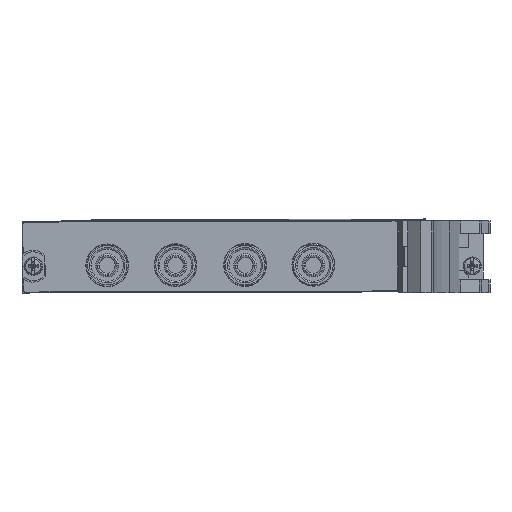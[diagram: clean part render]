
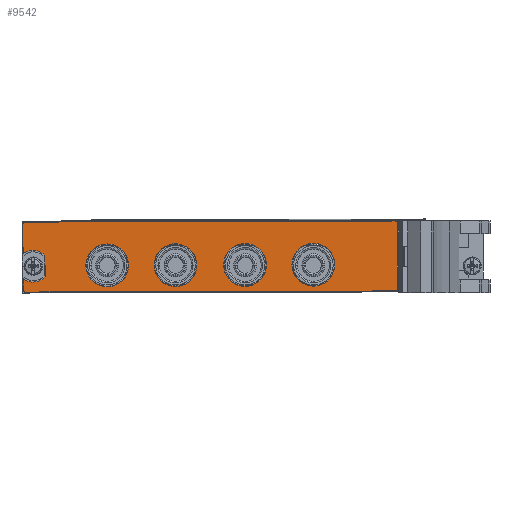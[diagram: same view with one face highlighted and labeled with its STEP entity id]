
A CAD part, left-side view. The second image highlights one B-rep face of the part: STEP entity #9542.
In plain terms, the highlighted planar face has unit normal (-1, 0, 0).
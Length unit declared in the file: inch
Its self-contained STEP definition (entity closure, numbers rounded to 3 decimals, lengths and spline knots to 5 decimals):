
#3374=CARTESIAN_POINT('',(-0.215,0.53584,
0.66169));
#3375=DIRECTION('',(-1.,0.,0.));
#3376=DIRECTION('',(0.,0.003,1.));
#3377=AXIS2_PLACEMENT_3D('',#3374,#3375,#3376);
#3379=DIRECTION('',(0.,1.,-0.003));
#3380=VECTOR('',#3379,4.07);
#3381=CARTESIAN_POINT('',(-0.215,-3.53409,
0.69393));
#3382=LINE('',#3381,#3380);
#3383=CARTESIAN_POINT('',(-0.215,-3.53415,
0.67393));
#3384=DIRECTION('',(-1.,0.,0.));
#3385=DIRECTION('',(0.,-1.,0.003));
#3386=AXIS2_PLACEMENT_3D('',#3383,#3384,#3385);
#3388=DIRECTION('',(0.,0.003,1.));
#3389=VECTOR('',#3388,0.728);
#3390=CARTESIAN_POINT('',(-0.215,-3.55634,
-0.054));
#3391=LINE('',#3390,#3389);
#3392=CARTESIAN_POINT('',(-0.215,-3.53634,
-0.05406));
#3393=DIRECTION('',(-1.,0.,0.));
#3394=DIRECTION('',(0.,-0.003,-1.));
#3395=AXIS2_PLACEMENT_3D('',#3392,#3393,#3394);
#3397=DIRECTION('',(0.,-1.,0.003));
#3398=VECTOR('',#3397,4.07);
#3399=CARTESIAN_POINT('',(-0.215,0.53358,
-0.08631));
#3400=LINE('',#3399,#3398);
#3401=CARTESIAN_POINT('',(-0.215,0.53365,
-0.06631));
#3402=DIRECTION('',(-1.,0.,0.));
#3403=DIRECTION('',(0.,1.,-0.003));
#3404=AXIS2_PLACEMENT_3D('',#3401,#3402,#3403);
#3406=DIRECTION('',(0.,-0.003,-1.));
#3407=VECTOR('',#3406,0.1263);
#3408=CARTESIAN_POINT('',(-0.215,0.55402,
0.05993));
#3409=LINE('',#3408,#3407);
#3410=CARTESIAN_POINT('',(-0.215,0.44644,
0.19795));
#3411=DIRECTION('',(1.,0.,0.));
#3412=DIRECTION('',(0.,-0.762,-0.648));
#3413=AXIS2_PLACEMENT_3D('',#3410,#3411,#3412);
#3415=DIRECTION('',(0.,-0.003,-1.));
#3416=VECTOR('',#3415,0.22747);
#3417=CARTESIAN_POINT('',(-0.215,0.31378,
0.31209));
#3418=LINE('',#3417,#3416);
#3419=CARTESIAN_POINT('',(-0.215,0.44644,
0.19795));
#3420=DIRECTION('',(1.,0.,0.));
#3421=DIRECTION('',(0.,0.62,0.785));
#3422=AXIS2_PLACEMENT_3D('',#3419,#3420,#3421);
#3424=DIRECTION('',(0.,-0.003,-1.));
#3425=VECTOR('',#3424,0.3263);
#3426=CARTESIAN_POINT('',(-0.215,0.55584,
0.66163));
#3427=LINE('',#3426,#3425);
#3428=CARTESIAN_POINT('',(-0.215,-0.36961,0.20678));
#3429=DIRECTION('',(1.,0.,0.));
#3430=DIRECTION('',(0.,-0.003,-1.));
#3431=AXIS2_PLACEMENT_3D('',#3428,#3429,#3430);
#3433=CARTESIAN_POINT('',(-0.215,-0.36961,0.20678));
#3434=DIRECTION('',(1.,0.,0.));
#3435=DIRECTION('',(0.,0.003,1.));
#3436=AXIS2_PLACEMENT_3D('',#3433,#3434,#3435);
#3438=CARTESIAN_POINT('',(-0.215,-1.1196,0.20904));
#3439=DIRECTION('',(1.,0.,0.));
#3440=DIRECTION('',(0.,-0.003,-1.));
#3441=AXIS2_PLACEMENT_3D('',#3438,#3439,#3440);
#3443=CARTESIAN_POINT('',(-0.215,-1.1196,0.20904));
#3444=DIRECTION('',(1.,0.,0.));
#3445=DIRECTION('',(0.,0.003,1.));
#3446=AXIS2_PLACEMENT_3D('',#3443,#3444,#3445);
#3448=CARTESIAN_POINT('',(-0.215,-1.8836,0.21133));
#3449=DIRECTION('',(1.,0.,0.));
#3450=DIRECTION('',(0.,-0.003,-1.));
#3451=AXIS2_PLACEMENT_3D('',#3448,#3449,#3450);
#3453=CARTESIAN_POINT('',(-0.215,-1.8836,0.21133));
#3454=DIRECTION('',(1.,0.,0.));
#3455=DIRECTION('',(0.,0.003,1.));
#3456=AXIS2_PLACEMENT_3D('',#3453,#3454,#3455);
#3458=CARTESIAN_POINT('',(-0.215,-2.6336,0.21359));
#3459=DIRECTION('',(1.,0.,0.));
#3460=DIRECTION('',(0.,-0.003,-1.));
#3461=AXIS2_PLACEMENT_3D('',#3458,#3459,#3460);
#3463=CARTESIAN_POINT('',(-0.215,-2.6336,0.21359));
#3464=DIRECTION('',(1.,0.,0.));
#3465=DIRECTION('',(0.,0.003,1.));
#3466=AXIS2_PLACEMENT_3D('',#3463,#3464,#3465);
#4984=CARTESIAN_POINT('',(-0.215,0.5359,
0.68169));
#4985=CARTESIAN_POINT('',(-0.215,0.55584,
0.66163));
#4986=VERTEX_POINT('',#4984);
#4987=VERTEX_POINT('',#4985);
#4988=CARTESIAN_POINT('',(-0.215,0.55485,
0.33533));
#4989=VERTEX_POINT('',#4988);
#4990=CARTESIAN_POINT('',(-0.215,0.31378,
0.31209));
#4991=VERTEX_POINT('',#4990);
#4992=CARTESIAN_POINT('',(-0.215,0.3131,
0.08462));
#4993=VERTEX_POINT('',#4992);
#4994=CARTESIAN_POINT('',(-0.215,0.55402,
0.05993));
#4995=VERTEX_POINT('',#4994);
#4996=CARTESIAN_POINT('',(-0.215,0.55364,
-0.06637));
#4997=VERTEX_POINT('',#4996);
#4998=CARTESIAN_POINT('',(-0.215,0.53358,
-0.08631));
#4999=VERTEX_POINT('',#4998);
#5000=CARTESIAN_POINT('',(-0.215,-3.5364,
-0.07406));
#5001=VERTEX_POINT('',#5000);
#5002=CARTESIAN_POINT('',(-0.215,-3.55634,
-0.054));
#5003=VERTEX_POINT('',#5002);
#5004=CARTESIAN_POINT('',(-0.215,-3.55415,
0.67399));
#5005=VERTEX_POINT('',#5004);
#5006=CARTESIAN_POINT('',(-0.215,-3.53409,
0.69393));
#5007=VERTEX_POINT('',#5006);
#5008=CARTESIAN_POINT('',(-0.215,-0.37031,-0.02822));
#5009=CARTESIAN_POINT('',(-0.215,-0.3689,0.44178));
#5010=VERTEX_POINT('',#5008);
#5011=VERTEX_POINT('',#5009);
#5012=CARTESIAN_POINT('',(-0.215,-1.12031,-0.02596));
#5013=CARTESIAN_POINT('',(-0.215,-1.1189,0.44403));
#5014=VERTEX_POINT('',#5012);
#5015=VERTEX_POINT('',#5013);
#5016=CARTESIAN_POINT('',(-0.215,-1.88431,-0.02367));
#5017=CARTESIAN_POINT('',(-0.215,-1.88289,0.44633));
#5018=VERTEX_POINT('',#5016);
#5019=VERTEX_POINT('',#5017);
#5020=CARTESIAN_POINT('',(-0.215,-2.6343,-0.02141));
#5021=CARTESIAN_POINT('',(-0.215,-2.63289,0.44859));
#5022=VERTEX_POINT('',#5020);
#5023=VERTEX_POINT('',#5021);
#9490=CARTESIAN_POINT('',(-0.215,0.44644,
0.19795));
#9491=DIRECTION('',(-1.,0.,0.));
#9492=DIRECTION('',(0.,0.003,1.));
#9493=AXIS2_PLACEMENT_3D('',#9490,#9491,#9492);
#9494=PLANE('',#9493);
#9495=ORIENTED_EDGE('',*,*,#5522,.F.);
#9497=ORIENTED_EDGE('',*,*,#9496,.F.);
#9499=ORIENTED_EDGE('',*,*,#9498,.F.);
#9501=ORIENTED_EDGE('',*,*,#9500,.F.);
#9503=ORIENTED_EDGE('',*,*,#9502,.F.);
#9505=ORIENTED_EDGE('',*,*,#9504,.F.);
#9507=ORIENTED_EDGE('',*,*,#9506,.F.);
#9509=ORIENTED_EDGE('',*,*,#9508,.F.);
#9511=ORIENTED_EDGE('',*,*,#9510,.F.);
#9513=ORIENTED_EDGE('',*,*,#9512,.F.);
#9515=ORIENTED_EDGE('',*,*,#9514,.F.);
#9517=ORIENTED_EDGE('',*,*,#9516,.F.);
#9518=EDGE_LOOP('',(#9495,#9497,#9499,#9501,#9503,#9505,#9507,#9509,#9511,#9513,
#9515,#9517));
#9519=FACE_OUTER_BOUND('',#9518,.F.);
#9521=ORIENTED_EDGE('',*,*,#9520,.F.);
#9523=ORIENTED_EDGE('',*,*,#9522,.F.);
#9524=EDGE_LOOP('',(#9521,#9523));
#9525=FACE_BOUND('',#9524,.F.);
#9527=ORIENTED_EDGE('',*,*,#9526,.F.);
#9529=ORIENTED_EDGE('',*,*,#9528,.F.);
#9530=EDGE_LOOP('',(#9527,#9529));
#9531=FACE_BOUND('',#9530,.F.);
#9533=ORIENTED_EDGE('',*,*,#9532,.F.);
#9535=ORIENTED_EDGE('',*,*,#9534,.F.);
#9536=EDGE_LOOP('',(#9533,#9535));
#9537=FACE_BOUND('',#9536,.F.);
#9538=ORIENTED_EDGE('',*,*,#9470,.F.);
#9539=ORIENTED_EDGE('',*,*,#9484,.F.);
#9540=EDGE_LOOP('',(#9538,#9539));
#9541=FACE_BOUND('',#9540,.F.);
#9542=ADVANCED_FACE('',(#9519,#9525,#9531,#9537,#9541),#9494,.T.);
#3378=CIRCLE('',#3377,0.02);
#3387=CIRCLE('',#3386,0.02);
#3396=CIRCLE('',#3395,0.02);
#3405=CIRCLE('',#3404,0.02);
#3414=CIRCLE('',#3413,0.175);
#3423=CIRCLE('',#3422,0.175);
#3432=CIRCLE('',#3431,0.235);
#3437=CIRCLE('',#3436,0.235);
#3442=CIRCLE('',#3441,0.235);
#3447=CIRCLE('',#3446,0.235);
#3452=CIRCLE('',#3451,0.235);
#3457=CIRCLE('',#3456,0.235);
#3462=CIRCLE('',#3461,0.235);
#3467=CIRCLE('',#3466,0.235);
#5522=EDGE_CURVE('',#4986,#4987,#3378,.T.);
#9470=EDGE_CURVE('',#5022,#5023,#3462,.T.);
#9484=EDGE_CURVE('',#5023,#5022,#3467,.T.);
#9496=EDGE_CURVE('',#5007,#4986,#3382,.T.);
#9498=EDGE_CURVE('',#5005,#5007,#3387,.T.);
#9500=EDGE_CURVE('',#5003,#5005,#3391,.T.);
#9502=EDGE_CURVE('',#5001,#5003,#3396,.T.);
#9504=EDGE_CURVE('',#4999,#5001,#3400,.T.);
#9506=EDGE_CURVE('',#4997,#4999,#3405,.T.);
#9508=EDGE_CURVE('',#4995,#4997,#3409,.T.);
#9510=EDGE_CURVE('',#4993,#4995,#3414,.T.);
#9512=EDGE_CURVE('',#4991,#4993,#3418,.T.);
#9514=EDGE_CURVE('',#4989,#4991,#3423,.T.);
#9516=EDGE_CURVE('',#4987,#4989,#3427,.T.);
#9520=EDGE_CURVE('',#5010,#5011,#3432,.T.);
#9522=EDGE_CURVE('',#5011,#5010,#3437,.T.);
#9526=EDGE_CURVE('',#5014,#5015,#3442,.T.);
#9528=EDGE_CURVE('',#5015,#5014,#3447,.T.);
#9532=EDGE_CURVE('',#5018,#5019,#3452,.T.);
#9534=EDGE_CURVE('',#5019,#5018,#3457,.T.);
